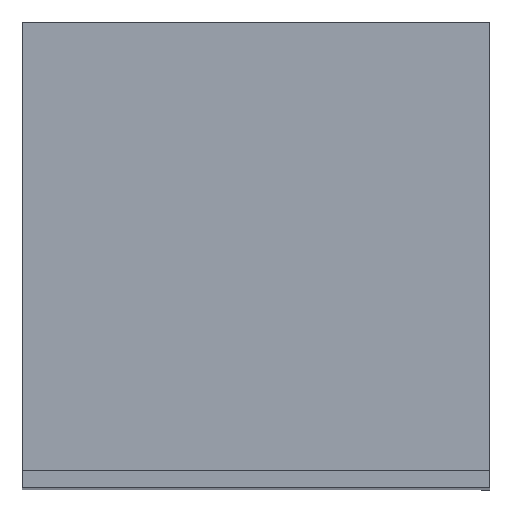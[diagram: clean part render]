
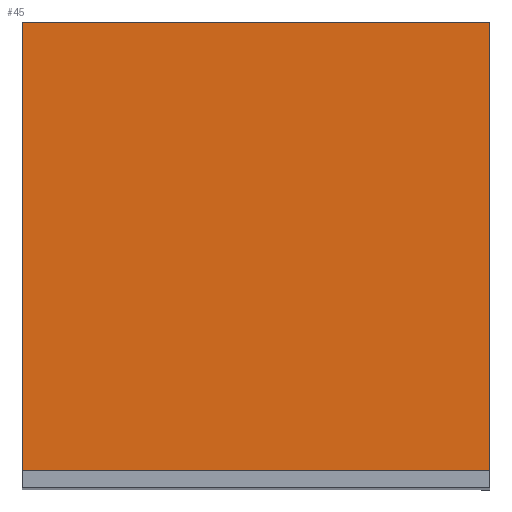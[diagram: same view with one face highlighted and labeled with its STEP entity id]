
A CAD part, top view. The second image highlights one B-rep face of the part: STEP entity #45.
In plain terms, the highlighted planar face has unit normal (0, 0, 1).
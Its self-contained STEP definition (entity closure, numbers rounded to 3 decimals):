
#45=ADVANCED_FACE('',(#57),#193,.T.);
#57=FACE_OUTER_BOUND('',#69,.T.);
#69=EDGE_LOOP('',(#111,#112,#113,#114));
#111=ORIENTED_EDGE('',*,*,#131,.F.);
#112=ORIENTED_EDGE('',*,*,#135,.F.);
#113=ORIENTED_EDGE('',*,*,#138,.F.);
#114=ORIENTED_EDGE('',*,*,#141,.F.);
#131=EDGE_CURVE('',#175,#176,#155,.T.);
#135=EDGE_CURVE('',#179,#175,#159,.T.);
#138=EDGE_CURVE('',#181,#179,#162,.T.);
#141=EDGE_CURVE('',#176,#181,#165,.T.);
#155=B_SPLINE_CURVE_WITH_KNOTS('',1,(#297,#298),.UNSPECIFIED.,.F.,.F.,(2,
2),(-1.798,0.),.UNSPECIFIED.);
#159=B_SPLINE_CURVE_WITH_KNOTS('',1,(#305,#306),.UNSPECIFIED.,.F.,.F.,(2,
2),(-1.722,0.),.UNSPECIFIED.);
#162=B_SPLINE_CURVE_WITH_KNOTS('',1,(#311,#312),.UNSPECIFIED.,.F.,.F.,(2,
2),(-1.798,0.),.UNSPECIFIED.);
#165=B_SPLINE_CURVE_WITH_KNOTS('',1,(#317,#318),.UNSPECIFIED.,.F.,.F.,(2,
2),(-1.722,0.),.UNSPECIFIED.);
#175=VERTEX_POINT('',#289);
#176=VERTEX_POINT('',#290);
#179=VERTEX_POINT('',#293);
#181=VERTEX_POINT('',#295);
#193=PLANE('',#225);
#225=AXIS2_PLACEMENT_3D('',#287,#240,$);
#240=DIRECTION('',(0.,0.,1.));
#287=CARTESIAN_POINT('',(274.01,563.01,1776.));
#289=CARTESIAN_POINT('',(-274.,563.,1776.));
#290=CARTESIAN_POINT('',(274.,563.,1776.));
#293=CARTESIAN_POINT('',(-274.,38.,1776.));
#295=CARTESIAN_POINT('',(274.,38.,1776.));
#297=CARTESIAN_POINT('',(-274.,563.,1776.));
#298=CARTESIAN_POINT('',(274.,563.,1776.));
#305=CARTESIAN_POINT('',(-274.,38.,1776.));
#306=CARTESIAN_POINT('',(-274.,563.,1776.));
#311=CARTESIAN_POINT('',(274.,38.,1776.));
#312=CARTESIAN_POINT('',(-274.,38.,1776.));
#317=CARTESIAN_POINT('',(274.,563.,1776.));
#318=CARTESIAN_POINT('',(274.,38.,1776.));
